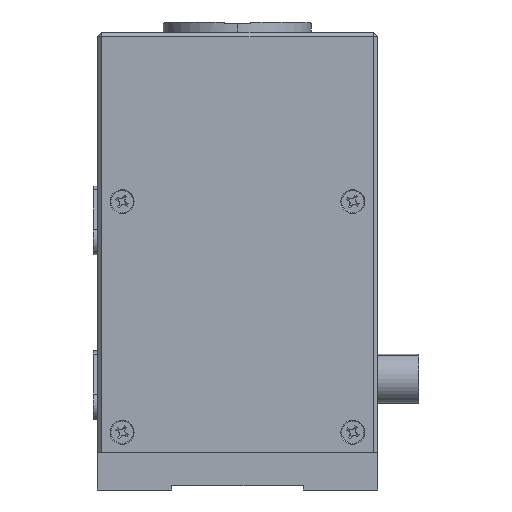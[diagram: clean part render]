
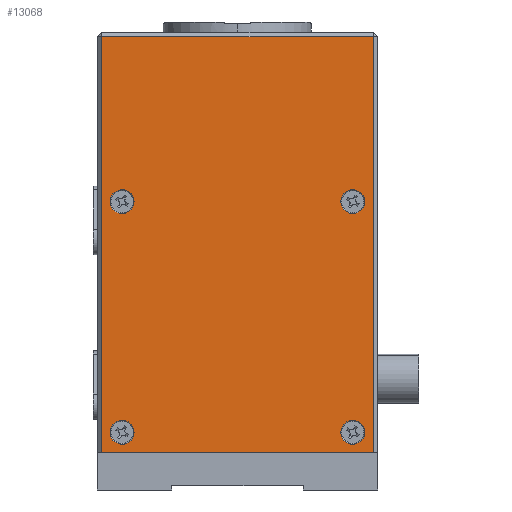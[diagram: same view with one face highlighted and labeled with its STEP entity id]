
A CAD part, front view. The second image highlights one B-rep face of the part: STEP entity #13068.
In plain terms, the highlighted planar face has unit normal (0, -1, 0).
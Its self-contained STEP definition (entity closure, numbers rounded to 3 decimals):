
#238 = DIRECTION ( 'NONE',  ( 0., 0., 1. ) ) ;
#272 = EDGE_CURVE ( 'NONE', #14181, #15865, #12573, .T. ) ;
#330 = CARTESIAN_POINT ( 'NONE',  ( -16.5, -15., 55. ) ) ;
#346 = DIRECTION ( 'NONE',  ( 0., 1., 0. ) ) ;
#406 = VERTEX_POINT ( 'NONE', #16887 ) ;
#784 = EDGE_CURVE ( 'NONE', #6542, #4248, #7602, .T. ) ;
#988 = AXIS2_PLACEMENT_3D ( 'NONE', #13012, #9073, #13061 ) ;
#1019 = AXIS2_PLACEMENT_3D ( 'NONE', #5538, #346, #6735 ) ;
#1084 = LINE ( 'NONE', #3704, #5617 ) ;
#1098 = AXIS2_PLACEMENT_3D ( 'NONE', #6003, #15281, #7323 ) ;
#1119 = CARTESIAN_POINT ( 'NONE',  ( -14., -15., 35. ) ) ;
#1390 = LINE ( 'NONE', #10962, #11515 ) ;
#1535 = CARTESIAN_POINT ( 'NONE',  ( -14., -15., 7. ) ) ;
#1857 = EDGE_CURVE ( 'NONE', #8606, #15505, #14423, .T. ) ;
#2436 = ORIENTED_EDGE ( 'NONE', *, *, #10942, .T. ) ;
#2471 = AXIS2_PLACEMENT_3D ( 'NONE', #1119, #3763, #13018 ) ;
#2676 = CIRCLE ( 'NONE', #1019, 1.45 ) ;
#2853 = EDGE_LOOP ( 'NONE', ( #11219, #3373 ) ) ;
#2935 = PLANE ( 'NONE',  #15190 ) ;
#3117 = CIRCLE ( 'NONE', #988, 1.45 ) ;
#3373 = ORIENTED_EDGE ( 'NONE', *, *, #14122, .T. ) ;
#3495 = DIRECTION ( 'NONE',  ( -1., 0., 0. ) ) ;
#3549 = AXIS2_PLACEMENT_3D ( 'NONE', #13210, #14564, #14614 ) ;
#3704 = CARTESIAN_POINT ( 'NONE',  ( -16.5, -15., 55.5 ) ) ;
#3763 = DIRECTION ( 'NONE',  ( 0., 1., 0. ) ) ;
#4086 = CIRCLE ( 'NONE', #15464, 1.45 ) ;
#4248 = VERTEX_POINT ( 'NONE', #330 ) ;
#4527 = ORIENTED_EDGE ( 'NONE', *, *, #12485, .T. ) ;
#4587 = CARTESIAN_POINT ( 'NONE',  ( -17., -15., 55. ) ) ;
#4669 = CARTESIAN_POINT ( 'NONE',  ( 14., -15., 36.45 ) ) ;
#4886 = ORIENTED_EDGE ( 'NONE', *, *, #7237, .T. ) ;
#4936 = CIRCLE ( 'NONE', #2471, 1.45 ) ;
#5107 = VERTEX_POINT ( 'NONE', #16265 ) ;
#5221 = VECTOR ( 'NONE', #12792, 1000. ) ;
#5357 = CARTESIAN_POINT ( 'NONE',  ( -14., -15., 33.55 ) ) ;
#5483 = DIRECTION ( 'NONE',  ( 0., 0., -1. ) ) ;
#5538 = CARTESIAN_POINT ( 'NONE',  ( 14., -15., 35. ) ) ;
#5553 = DIRECTION ( 'NONE',  ( 0., 1., 0. ) ) ;
#5617 = VECTOR ( 'NONE', #7526, 1000. ) ;
#6003 = CARTESIAN_POINT ( 'NONE',  ( -14., -15., 7. ) ) ;
#6247 = LINE ( 'NONE', #11404, #5221 ) ;
#6542 = VERTEX_POINT ( 'NONE', #15995 ) ;
#6735 = DIRECTION ( 'NONE',  ( 0., 0., -1. ) ) ;
#6788 = EDGE_LOOP ( 'NONE', ( #16308, #16501 ) ) ;
#6950 = DIRECTION ( 'NONE',  ( 0., 1., 0. ) ) ;
#7196 = CARTESIAN_POINT ( 'NONE',  ( -14., -15., 36.45 ) ) ;
#7237 = EDGE_CURVE ( 'NONE', #10943, #5107, #6247, .T. ) ;
#7323 = DIRECTION ( 'NONE',  ( 0., 0., -1. ) ) ;
#7409 = EDGE_LOOP ( 'NONE', ( #11561, #14352 ) ) ;
#7416 = CARTESIAN_POINT ( 'NONE',  ( -14., -15., 5.55 ) ) ;
#7526 = DIRECTION ( 'NONE',  ( 0., 0., -1. ) ) ;
#7602 = LINE ( 'NONE', #4587, #10698 ) ;
#7727 = EDGE_LOOP ( 'NONE', ( #4886, #2436, #13393, #13225 ) ) ;
#7885 = CARTESIAN_POINT ( 'NONE',  ( 14., -15., 8.45 ) ) ;
#8246 = CARTESIAN_POINT ( 'NONE',  ( -16.5, -15., 4.5 ) ) ;
#8341 = CARTESIAN_POINT ( 'NONE',  ( 14., -15., 5.55 ) ) ;
#8606 = VERTEX_POINT ( 'NONE', #11456 ) ;
#8689 = FACE_OUTER_BOUND ( 'NONE', #7727, .T. ) ;
#8805 = EDGE_CURVE ( 'NONE', #9606, #9327, #4936, .T. ) ;
#9073 = DIRECTION ( 'NONE',  ( 0., 1., 0. ) ) ;
#9327 = VERTEX_POINT ( 'NONE', #5357 ) ;
#9502 = EDGE_CURVE ( 'NONE', #9327, #9606, #4086, .T. ) ;
#9606 = VERTEX_POINT ( 'NONE', #7196 ) ;
#10357 = FACE_BOUND ( 'NONE', #6788, .T. ) ;
#10608 = CIRCLE ( 'NONE', #1098, 1.45 ) ;
#10698 = VECTOR ( 'NONE', #3495, 1000. ) ;
#10942 = EDGE_CURVE ( 'NONE', #5107, #6542, #1390, .T. ) ;
#10943 = VERTEX_POINT ( 'NONE', #8246 ) ;
#10947 = DIRECTION ( 'NONE',  ( 0., 0., -1. ) ) ;
#10962 = CARTESIAN_POINT ( 'NONE',  ( 16.5, -15., 55.5 ) ) ;
#11010 = DIRECTION ( 'NONE',  ( 0., 0., -1. ) ) ;
#11219 = ORIENTED_EDGE ( 'NONE', *, *, #272, .T. ) ;
#11404 = CARTESIAN_POINT ( 'NONE',  ( 17., -15., 4.5 ) ) ;
#11456 = CARTESIAN_POINT ( 'NONE',  ( -14., -15., 8.45 ) ) ;
#11515 = VECTOR ( 'NONE', #238, 1000. ) ;
#11561 = ORIENTED_EDGE ( 'NONE', *, *, #1857, .T. ) ;
#11848 = AXIS2_PLACEMENT_3D ( 'NONE', #13938, #13760, #15231 ) ;
#12125 = DIRECTION ( 'NONE',  ( 0., 1., 0. ) ) ;
#12155 = VERTEX_POINT ( 'NONE', #4669 ) ;
#12259 = EDGE_CURVE ( 'NONE', #4248, #10943, #1084, .T. ) ;
#12485 = EDGE_CURVE ( 'NONE', #12155, #406, #3117, .T. ) ;
#12573 = CIRCLE ( 'NONE', #11848, 1.45 ) ;
#12792 = DIRECTION ( 'NONE',  ( 1., 0., 0. ) ) ;
#13012 = CARTESIAN_POINT ( 'NONE',  ( 14., -15., 35. ) ) ;
#13018 = DIRECTION ( 'NONE',  ( 0., 0., -1. ) ) ;
#13061 = DIRECTION ( 'NONE',  ( 0., 0., -1. ) ) ;
#13068 = ADVANCED_FACE ( 'NONE', ( #13265, #14737, #16000, #10357, #8689 ), #2935, .F. ) ;
#13097 = EDGE_LOOP ( 'NONE', ( #4527, #13583 ) ) ;
#13210 = CARTESIAN_POINT ( 'NONE',  ( 14., -15., 7. ) ) ;
#13225 = ORIENTED_EDGE ( 'NONE', *, *, #12259, .T. ) ;
#13265 = FACE_BOUND ( 'NONE', #7409, .T. ) ;
#13353 = CARTESIAN_POINT ( 'NONE',  ( 17., -15., 55.5 ) ) ;
#13393 = ORIENTED_EDGE ( 'NONE', *, *, #784, .T. ) ;
#13442 = CIRCLE ( 'NONE', #3549, 1.45 ) ;
#13551 = EDGE_CURVE ( 'NONE', #406, #12155, #2676, .T. ) ;
#13583 = ORIENTED_EDGE ( 'NONE', *, *, #13551, .T. ) ;
#13760 = DIRECTION ( 'NONE',  ( 0., 1., 0. ) ) ;
#13938 = CARTESIAN_POINT ( 'NONE',  ( 14., -15., 7. ) ) ;
#14122 = EDGE_CURVE ( 'NONE', #15865, #14181, #13442, .T. ) ;
#14181 = VERTEX_POINT ( 'NONE', #7885 ) ;
#14352 = ORIENTED_EDGE ( 'NONE', *, *, #17162, .T. ) ;
#14423 = CIRCLE ( 'NONE', #15419, 1.45 ) ;
#14564 = DIRECTION ( 'NONE',  ( 0., 1., 0. ) ) ;
#14614 = DIRECTION ( 'NONE',  ( 0., 0., -1. ) ) ;
#14737 = FACE_BOUND ( 'NONE', #2853, .T. ) ;
#15190 = AXIS2_PLACEMENT_3D ( 'NONE', #13353, #5553, #5483 ) ;
#15231 = DIRECTION ( 'NONE',  ( 0., 0., -1. ) ) ;
#15281 = DIRECTION ( 'NONE',  ( 0., 1., 0. ) ) ;
#15419 = AXIS2_PLACEMENT_3D ( 'NONE', #1535, #6950, #10947 ) ;
#15464 = AXIS2_PLACEMENT_3D ( 'NONE', #16162, #12125, #11010 ) ;
#15505 = VERTEX_POINT ( 'NONE', #7416 ) ;
#15865 = VERTEX_POINT ( 'NONE', #8341 ) ;
#15995 = CARTESIAN_POINT ( 'NONE',  ( 16.5, -15., 55. ) ) ;
#16000 = FACE_BOUND ( 'NONE', #13097, .T. ) ;
#16162 = CARTESIAN_POINT ( 'NONE',  ( -14., -15., 35. ) ) ;
#16265 = CARTESIAN_POINT ( 'NONE',  ( 16.5, -15., 4.5 ) ) ;
#16308 = ORIENTED_EDGE ( 'NONE', *, *, #8805, .T. ) ;
#16501 = ORIENTED_EDGE ( 'NONE', *, *, #9502, .T. ) ;
#16887 = CARTESIAN_POINT ( 'NONE',  ( 14., -15., 33.55 ) ) ;
#17162 = EDGE_CURVE ( 'NONE', #15505, #8606, #10608, .T. ) ;
